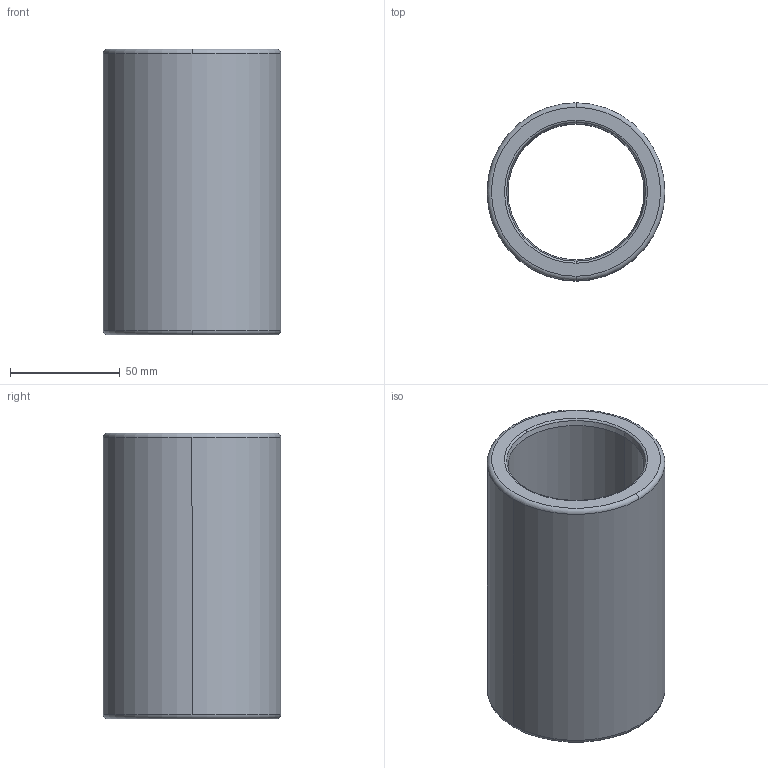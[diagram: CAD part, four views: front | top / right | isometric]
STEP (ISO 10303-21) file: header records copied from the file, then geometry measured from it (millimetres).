
FILE_DESCRIPTION((''),'2;1');
FILE_NAME('B30_050_130.stp','2009-01-12T10:57:09',(''),(''),'Mechanical Desktop 2009','Mechanical Desktop 2009',', , ');
FILE_SCHEMA(('CONFIG_CONTROL_DESIGN'));
Length unit declared in the file: millimetre
Products named in the file (2): Product; blmdl1
Assembly tree (1 placements, depth 2):
  Product
    blmdl1
Bounding box: 80.98 x 80.98 x 130 mm (x, y, z)
Volume: 276683.2 mm3; surface area: 61859.7 mm2
Topology: 1 solids, 1 shells, 18 faces, 48 edges, 32 vertices
Faces by surface type: torus 8, cylinder 4, cone 4, plane 2
Entity records: 705 total; most frequent: DIRECTION 128, CARTESIAN_POINT 100, ORIENTED_EDGE 96, AXIS2_PLACEMENT_3D 60, EDGE_CURVE 48, CIRCLE 40, VERTEX_POINT 32, EDGE_LOOP 20
